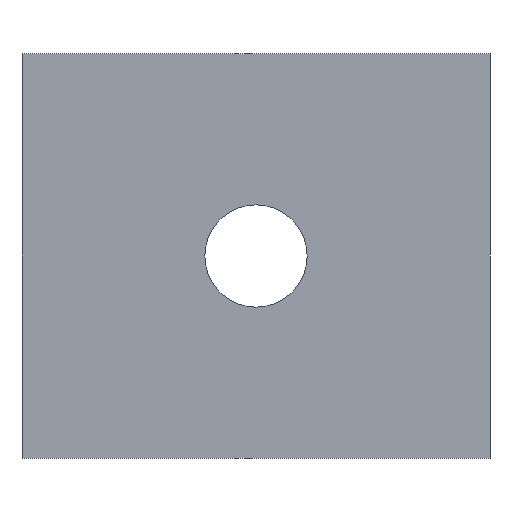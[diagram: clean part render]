
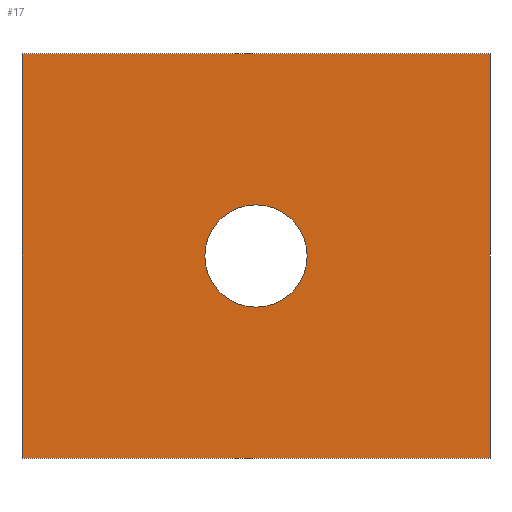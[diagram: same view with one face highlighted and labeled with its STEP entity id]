
A CAD part, left-side view. The second image highlights one B-rep face of the part: STEP entity #17.
In plain terms, the highlighted planar face has unit normal (-1, 0, 0).
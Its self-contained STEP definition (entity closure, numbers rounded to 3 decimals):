
#17 = ADVANCED_FACE('',(#18,#137),#32,.F.);
#18 = FACE_BOUND('',#19,.F.);
#19 = EDGE_LOOP('',(#20,#55,#83,#111));
#20 = ORIENTED_EDGE('',*,*,#21,.F.);
#21 = EDGE_CURVE('',#22,#24,#26,.T.);
#22 = VERTEX_POINT('',#23);
#23 = CARTESIAN_POINT('',(-11.265,-13.95,-12.05));
#24 = VERTEX_POINT('',#25);
#25 = CARTESIAN_POINT('',(-11.265,-13.95,12.05));
#26 = SURFACE_CURVE('',#27,(#31,#43),.PCURVE_S1.);
#27 = LINE('',#28,#29);
#28 = CARTESIAN_POINT('',(-11.265,-13.95,-12.05));
#29 = VECTOR('',#30,1.);
#30 = DIRECTION('',(0.,0.,1.));
#31 = PCURVE('',#32,#37);
#32 = PLANE('',#33);
#33 = AXIS2_PLACEMENT_3D('',#34,#35,#36);
#34 = CARTESIAN_POINT('',(-11.265,-13.95,-12.05));
#35 = DIRECTION('',(1.,0.,0.));
#36 = DIRECTION('',(0.,0.,1.));
#37 = DEFINITIONAL_REPRESENTATION('',(#38),#42);
#38 = LINE('',#39,#40);
#39 = CARTESIAN_POINT('',(0.,0.));
#40 = VECTOR('',#41,1.);
#41 = DIRECTION('',(1.,0.));
#42 = ( GEOMETRIC_REPRESENTATION_CONTEXT(2) 
PARAMETRIC_REPRESENTATION_CONTEXT() REPRESENTATION_CONTEXT('2D SPACE',''
  ) );
#43 = PCURVE('',#44,#49);
#44 = PLANE('',#45);
#45 = AXIS2_PLACEMENT_3D('',#46,#47,#48);
#46 = CARTESIAN_POINT('',(-11.265,-13.95,-12.05));
#47 = DIRECTION('',(0.,1.,0.));
#48 = DIRECTION('',(0.,0.,1.));
#49 = DEFINITIONAL_REPRESENTATION('',(#50),#54);
#50 = LINE('',#51,#52);
#51 = CARTESIAN_POINT('',(0.,0.));
#52 = VECTOR('',#53,1.);
#53 = DIRECTION('',(1.,0.));
#54 = ( GEOMETRIC_REPRESENTATION_CONTEXT(2) 
PARAMETRIC_REPRESENTATION_CONTEXT() REPRESENTATION_CONTEXT('2D SPACE',''
  ) );
#55 = ORIENTED_EDGE('',*,*,#56,.T.);
#56 = EDGE_CURVE('',#22,#57,#59,.T.);
#57 = VERTEX_POINT('',#58);
#58 = CARTESIAN_POINT('',(-11.265,13.95,-12.05));
#59 = SURFACE_CURVE('',#60,(#64,#71),.PCURVE_S1.);
#60 = LINE('',#61,#62);
#61 = CARTESIAN_POINT('',(-11.265,-13.95,-12.05));
#62 = VECTOR('',#63,1.);
#63 = DIRECTION('',(0.,1.,0.));
#64 = PCURVE('',#32,#65);
#65 = DEFINITIONAL_REPRESENTATION('',(#66),#70);
#66 = LINE('',#67,#68);
#67 = CARTESIAN_POINT('',(0.,0.));
#68 = VECTOR('',#69,1.);
#69 = DIRECTION('',(0.,-1.));
#70 = ( GEOMETRIC_REPRESENTATION_CONTEXT(2) 
PARAMETRIC_REPRESENTATION_CONTEXT() REPRESENTATION_CONTEXT('2D SPACE',''
  ) );
#71 = PCURVE('',#72,#77);
#72 = PLANE('',#73);
#73 = AXIS2_PLACEMENT_3D('',#74,#75,#76);
#74 = CARTESIAN_POINT('',(-11.265,-13.95,-12.05));
#75 = DIRECTION('',(0.,0.,1.));
#76 = DIRECTION('',(1.,0.,0.));
#77 = DEFINITIONAL_REPRESENTATION('',(#78),#82);
#78 = LINE('',#79,#80);
#79 = CARTESIAN_POINT('',(0.,0.));
#80 = VECTOR('',#81,1.);
#81 = DIRECTION('',(0.,1.));
#82 = ( GEOMETRIC_REPRESENTATION_CONTEXT(2) 
PARAMETRIC_REPRESENTATION_CONTEXT() REPRESENTATION_CONTEXT('2D SPACE',''
  ) );
#83 = ORIENTED_EDGE('',*,*,#84,.T.);
#84 = EDGE_CURVE('',#57,#85,#87,.T.);
#85 = VERTEX_POINT('',#86);
#86 = CARTESIAN_POINT('',(-11.265,13.95,12.05));
#87 = SURFACE_CURVE('',#88,(#92,#99),.PCURVE_S1.);
#88 = LINE('',#89,#90);
#89 = CARTESIAN_POINT('',(-11.265,13.95,-12.05));
#90 = VECTOR('',#91,1.);
#91 = DIRECTION('',(0.,0.,1.));
#92 = PCURVE('',#32,#93);
#93 = DEFINITIONAL_REPRESENTATION('',(#94),#98);
#94 = LINE('',#95,#96);
#95 = CARTESIAN_POINT('',(0.,-27.9));
#96 = VECTOR('',#97,1.);
#97 = DIRECTION('',(1.,0.));
#98 = ( GEOMETRIC_REPRESENTATION_CONTEXT(2) 
PARAMETRIC_REPRESENTATION_CONTEXT() REPRESENTATION_CONTEXT('2D SPACE',''
  ) );
#99 = PCURVE('',#100,#105);
#100 = PLANE('',#101);
#101 = AXIS2_PLACEMENT_3D('',#102,#103,#104);
#102 = CARTESIAN_POINT('',(-11.265,13.95,-12.05));
#103 = DIRECTION('',(0.,1.,0.));
#104 = DIRECTION('',(0.,0.,1.));
#105 = DEFINITIONAL_REPRESENTATION('',(#106),#110);
#106 = LINE('',#107,#108);
#107 = CARTESIAN_POINT('',(0.,0.));
#108 = VECTOR('',#109,1.);
#109 = DIRECTION('',(1.,0.));
#110 = ( GEOMETRIC_REPRESENTATION_CONTEXT(2) 
PARAMETRIC_REPRESENTATION_CONTEXT() REPRESENTATION_CONTEXT('2D SPACE',''
  ) );
#111 = ORIENTED_EDGE('',*,*,#112,.F.);
#112 = EDGE_CURVE('',#24,#85,#113,.T.);
#113 = SURFACE_CURVE('',#114,(#118,#125),.PCURVE_S1.);
#114 = LINE('',#115,#116);
#115 = CARTESIAN_POINT('',(-11.265,-13.95,12.05));
#116 = VECTOR('',#117,1.);
#117 = DIRECTION('',(0.,1.,0.));
#118 = PCURVE('',#32,#119);
#119 = DEFINITIONAL_REPRESENTATION('',(#120),#124);
#120 = LINE('',#121,#122);
#121 = CARTESIAN_POINT('',(24.1,0.));
#122 = VECTOR('',#123,1.);
#123 = DIRECTION('',(0.,-1.));
#124 = ( GEOMETRIC_REPRESENTATION_CONTEXT(2) 
PARAMETRIC_REPRESENTATION_CONTEXT() REPRESENTATION_CONTEXT('2D SPACE',''
  ) );
#125 = PCURVE('',#126,#131);
#126 = PLANE('',#127);
#127 = AXIS2_PLACEMENT_3D('',#128,#129,#130);
#128 = CARTESIAN_POINT('',(-11.265,-13.95,12.05));
#129 = DIRECTION('',(0.,0.,1.));
#130 = DIRECTION('',(1.,0.,0.));
#131 = DEFINITIONAL_REPRESENTATION('',(#132),#136);
#132 = LINE('',#133,#134);
#133 = CARTESIAN_POINT('',(0.,0.));
#134 = VECTOR('',#135,1.);
#135 = DIRECTION('',(0.,1.));
#136 = ( GEOMETRIC_REPRESENTATION_CONTEXT(2) 
PARAMETRIC_REPRESENTATION_CONTEXT() REPRESENTATION_CONTEXT('2D SPACE',''
  ) );
#137 = FACE_BOUND('',#138,.F.);
#138 = EDGE_LOOP('',(#139));
#139 = ORIENTED_EDGE('',*,*,#140,.T.);
#140 = EDGE_CURVE('',#141,#141,#143,.T.);
#141 = VERTEX_POINT('',#142);
#142 = CARTESIAN_POINT('',(-11.265,-3.05,0.));
#143 = SURFACE_CURVE('',#144,(#149,#160),.PCURVE_S1.);
#144 = CIRCLE('',#145,3.05);
#145 = AXIS2_PLACEMENT_3D('',#146,#147,#148);
#146 = CARTESIAN_POINT('',(-11.265,0.,0.));
#147 = DIRECTION('',(-1.,0.,0.));
#148 = DIRECTION('',(0.,-1.,0.));
#149 = PCURVE('',#32,#150);
#150 = DEFINITIONAL_REPRESENTATION('',(#151),#159);
#151 = ( BOUNDED_CURVE() B_SPLINE_CURVE(2,(#152,#153,#154,#155,#156,#157
,#158),.UNSPECIFIED.,.T.,.F.) B_SPLINE_CURVE_WITH_KNOTS((1,2,2,2,2,1),(
    -2.094,0.,2.094,4.189,6.283,
8.378),.UNSPECIFIED.) CURVE() GEOMETRIC_REPRESENTATION_ITEM() 
RATIONAL_B_SPLINE_CURVE((1.,0.5,1.,0.5,1.,0.5,1.)) REPRESENTATION_ITEM(
  '') );
#152 = CARTESIAN_POINT('',(12.05,-10.9));
#153 = CARTESIAN_POINT('',(17.333,-10.9));
#154 = CARTESIAN_POINT('',(14.691,-15.475));
#155 = CARTESIAN_POINT('',(12.05,-20.05));
#156 = CARTESIAN_POINT('',(9.409,-15.475));
#157 = CARTESIAN_POINT('',(6.767,-10.9));
#158 = CARTESIAN_POINT('',(12.05,-10.9));
#159 = ( GEOMETRIC_REPRESENTATION_CONTEXT(2) 
PARAMETRIC_REPRESENTATION_CONTEXT() REPRESENTATION_CONTEXT('2D SPACE',''
  ) );
#160 = PCURVE('',#161,#166);
#161 = CYLINDRICAL_SURFACE('',#162,3.05);
#162 = AXIS2_PLACEMENT_3D('',#163,#164,#165);
#163 = CARTESIAN_POINT('',(30.565,0.,0.));
#164 = DIRECTION('',(-1.,0.,0.));
#165 = DIRECTION('',(0.,-1.,0.));
#166 = DEFINITIONAL_REPRESENTATION('',(#167),#171);
#167 = LINE('',#168,#169);
#168 = CARTESIAN_POINT('',(0.,41.83));
#169 = VECTOR('',#170,1.);
#170 = DIRECTION('',(1.,0.));
#171 = ( GEOMETRIC_REPRESENTATION_CONTEXT(2) 
PARAMETRIC_REPRESENTATION_CONTEXT() REPRESENTATION_CONTEXT('2D SPACE',''
  ) );
